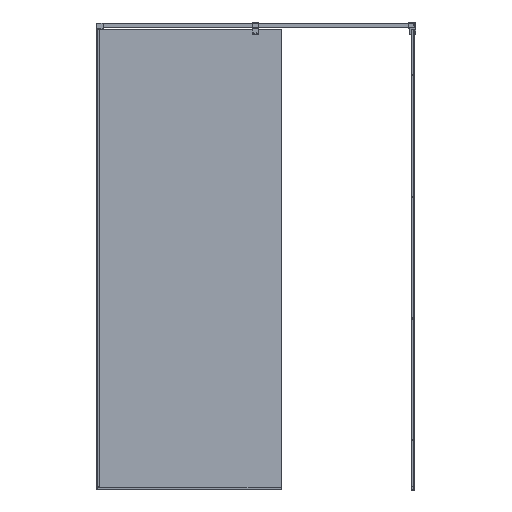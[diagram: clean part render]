
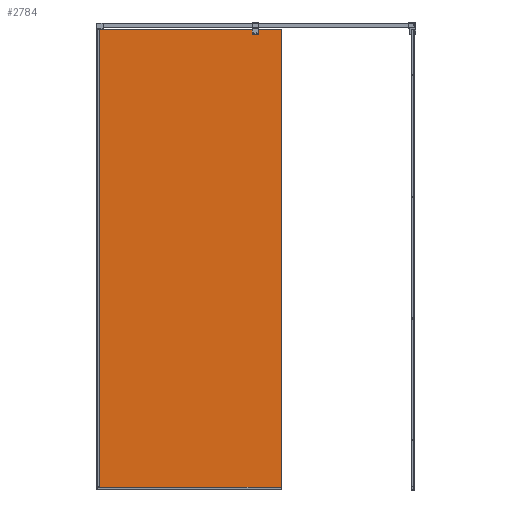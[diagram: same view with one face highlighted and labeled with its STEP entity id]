
A CAD part, left-side view. The second image highlights one B-rep face of the part: STEP entity #2784.
In plain terms, the highlighted planar face has unit normal (-1, 0, 0) as drawn and (0, 1, 0) by its records, which use the part's own axes.
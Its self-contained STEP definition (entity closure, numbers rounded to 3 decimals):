
#315=FACE_OUTER_BOUND($,#463,.T.);
#463=EDGE_LOOP($,(#1916,#1917,#1918,#1919));
#697=LINE($,#4085,#981);
#698=LINE($,#4088,#982);
#699=LINE($,#4090,#983);
#700=LINE($,#4091,#984);
#981=VECTOR($,#3245,2000.);
#982=VECTOR($,#3248,800.);
#983=VECTOR($,#3249,800.);
#984=VECTOR($,#3250,2000.);
#1262=VERTEX_POINT($,#4078);
#1265=VERTEX_POINT($,#4083);
#1266=VERTEX_POINT($,#4087);
#1267=VERTEX_POINT($,#4089);
#1534=EDGE_CURVE($,#1262,#1265,#697,.T.);
#1535=EDGE_CURVE($,#1266,#1262,#698,.T.);
#1536=EDGE_CURVE($,#1267,#1265,#699,.T.);
#1537=EDGE_CURVE($,#1266,#1267,#700,.T.);
#1916=ORIENTED_EDGE($,*,*,#1535,.T.);
#1917=ORIENTED_EDGE($,*,*,#1534,.T.);
#1918=ORIENTED_EDGE($,*,*,#1536,.F.);
#1919=ORIENTED_EDGE($,*,*,#1537,.F.);
#2675=PLANE($,#2963);
#2784=ADVANCED_FACE($,(#315),#2675,.T.);
#2963=AXIS2_PLACEMENT_3D($,#4086,#3246,#3247);
#3245=DIRECTION($,(0.,0.,1.));
#3246=DIRECTION('center_axis',(0.,1.,0.));
#3247=DIRECTION('ref_axis',(-1.,0.,0.));
#3248=DIRECTION($,(-1.,0.,0.));
#3249=DIRECTION($,(-1.,0.,0.));
#3250=DIRECTION($,(0.,0.,1.));
#4078=CARTESIAN_POINT('',(0.,10.,0.));
#4083=CARTESIAN_POINT('',(0.,10.,2000.));
#4085=CARTESIAN_POINT($,(0.,10.,0.));
#4086=CARTESIAN_POINT('Origin',(800.,10.,0.));
#4087=CARTESIAN_POINT('',(800.,10.,0.));
#4088=CARTESIAN_POINT($,(800.,10.,0.));
#4089=CARTESIAN_POINT('',(800.,10.,2000.));
#4090=CARTESIAN_POINT($,(800.,10.,2000.));
#4091=CARTESIAN_POINT($,(800.,10.,0.));
